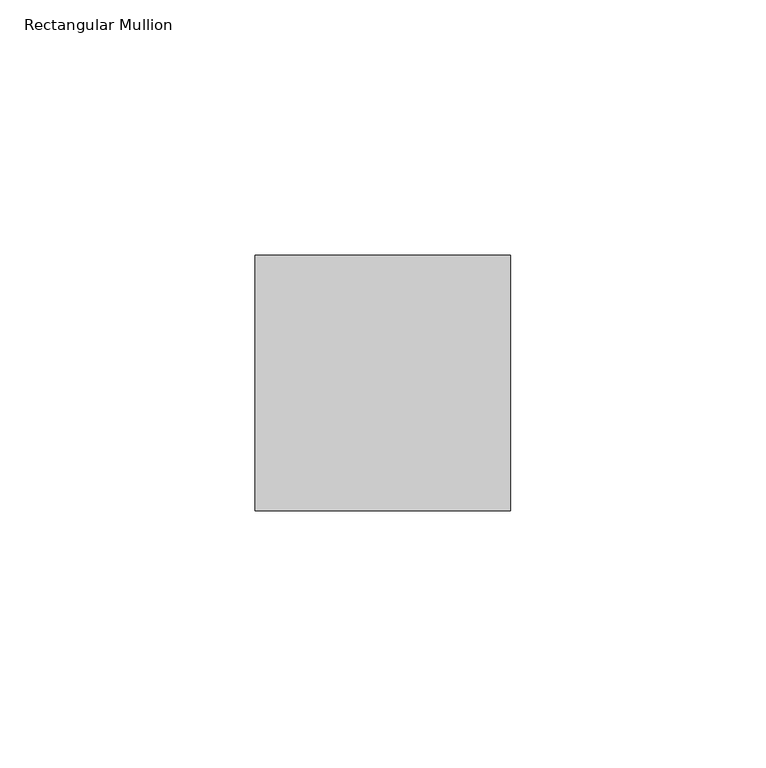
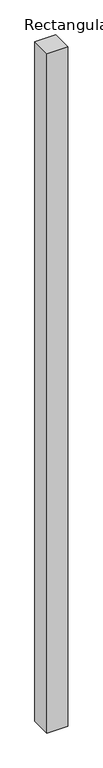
"""IFC4 building model written with IfcOpenShell, lengths in millimetres: member geometry, Rectangular Mullion : Mullion_Curtain Wall_Generic Showcase_50x50mm."""

from ifc_helpers import new_model, si_unit, frame, origin, place, context, project, spatial, polyline, outline, extrude, source, transform, mapped, element, save


def rectangular_mullion_5c014fa2(model_context):
    return source(origin(), model_context, "Body", "SweptSolid", [
        extrude(outline(polyline([(25.0, 0.0), (25.0, -50.0), (-25.0, -50.0), (-25.0, 0.0), (25.0, 0.0)])), frame((0.0, 0.0, -1725.0), z_axis=(0.0, 0.0, 1.0), x_axis=(1.0, 0.0, 0.0)), (0.0, 0.0, 1.0), 1725.0),
    ])


if __name__ == "__main__":
    model = new_model("IFC4")
    model_context = context("Model", 3, world=origin())
    ifc_project = project(units=[si_unit("LENGTHUNIT", "METRE", prefix="MILLI")], contexts=[model_context])
    site = spatial("IfcSite", under=ifc_project)
    building = spatial("IfcBuilding", under=site)
    placement = place(None, origin())
    rectangular_mullion_shape = rectangular_mullion_5c014fa2(model_context)
    element("IfcMember", 1, ObjectType="Rectangular Mullion : Mullion_Curtain Wall_Generic Showcase_50x50mm", at=placement, inside=building, context=model_context, shape_type="MappedRepresentation", body=[
        mapped(rectangular_mullion_shape, transform((0.0, 0.0, 0.0), x_axis=(1.0, 0.0, 0.0), y_axis=(0.0, 1.0, 0.0), z_axis=(0.0, 0.0, 1.0))),
    ])
    save(model, "model.ifc")
